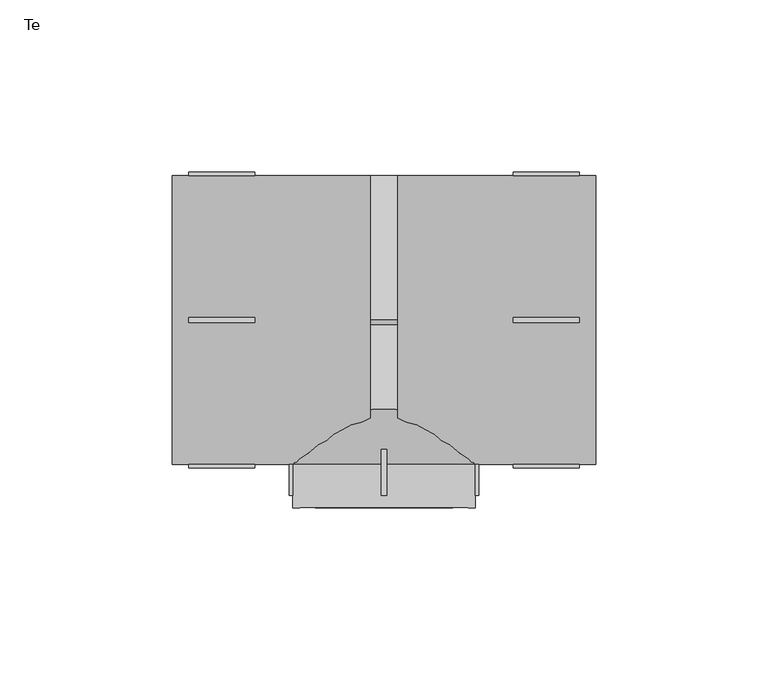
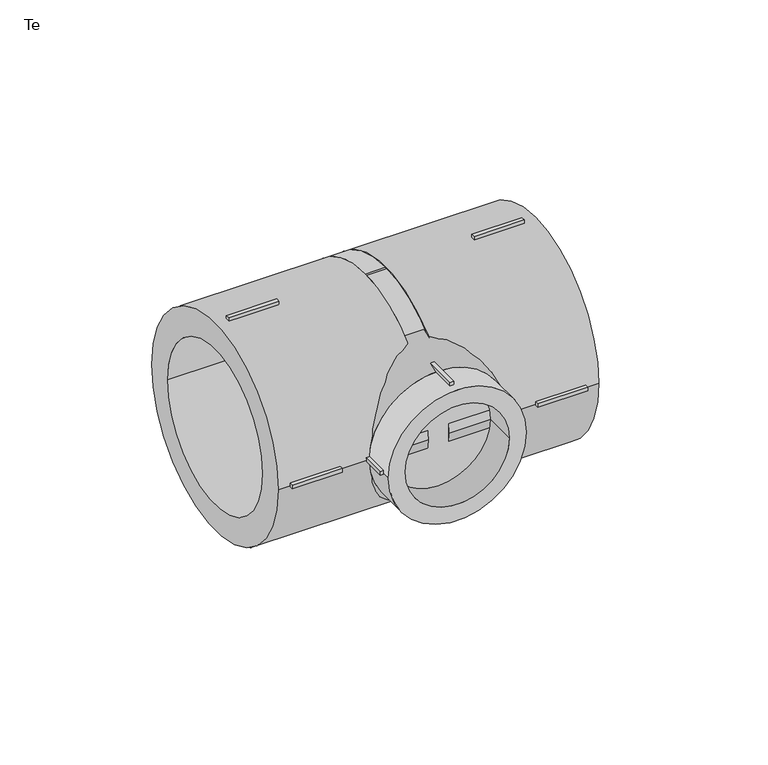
"""IFC4 building model written with IfcOpenShell, lengths in millimetres: pipe fitting geometry, EGB_VASEN_ PPR_Te WXR300_Te reducida WXR310 : Te."""

import ifcopenshell
import ifcopenshell.guid

model = None  # the IFC model being written
_history = None  # IfcOwnerHistory: only IFC2X3 demands one
_inside = {}  # id of a spatial element -> (the spatial element, [elements in it])
_under = {}  # id of a project, library or spatial element -> (it, [spatial elements below it])
_declared = {}  # id of a project -> (the project, [libraries it declares])
_typed = {}  # id of a type object -> (the type object, [elements of that type])
_made_of = {}  # id of a material, layer set ... -> (it, [elements and type objects made of it])


def new_model(schema):
    """Start an empty IFC model of exactly this schema.

    Asked for "IFC4X3", IfcOpenShell would pick the latest addendum, in which some entities
    have other attributes; the version numbers below select the first issue.
    IFC2X3 requires an IfcOwnerHistory on every rooted entity: one is made here for all.
    """
    global model, _history
    if schema == "IFC4X3":
        model = ifcopenshell.file(schema_version=(4, 3, 0, 0))
    else:
        model = ifcopenshell.file(schema=schema)
    _inside.clear()
    _under.clear()
    _declared.clear()
    _typed.clear()
    _made_of.clear()
    _history = None
    if model.schema == "IFC2X3":
        org = make("IfcOrganization", Name="unknown")
        user = make(
            "IfcPersonAndOrganization",
            ThePerson=make("IfcPerson", FamilyName="unknown"),
            TheOrganization=org,
        )
        app = make(
            "IfcApplication",
            ApplicationDeveloper=org,
            Version="unknown",
            ApplicationFullName="unknown",
            ApplicationIdentifier="unknown",
        )
        _history = make(
            "IfcOwnerHistory",
            OwningUser=user,
            OwningApplication=app,
            ChangeAction="ADDED",
            CreationDate=0,
        )
    return model


def make(cls, **values):
    """One entity of the class cls with the attributes given. An attribute that is None is left unset."""
    return model.create_entity(
        cls, **{name: value for name, value in values.items() if value is not None}
    )


def rooted(cls, **values):
    """An entity with a GlobalId (a new one), such as an element, a storey or a relation."""
    return make(cls, GlobalId=ifcopenshell.guid.new(), OwnerHistory=_history, **values)


def si_unit(unit_type, name, prefix=None):
    """IfcSIUnit, for example si_unit("LENGTHUNIT", "METRE", prefix="MILLI")."""
    return make("IfcSIUnit", UnitType=unit_type, Prefix=prefix, Name=name)


def assignment(units):
    """IfcUnitAssignment: the units of a project."""
    return None if units is None else make("IfcUnitAssignment", Units=units)


def point(xyz):
    """IfcCartesianPoint."""
    return None if xyz is None else make("IfcCartesianPoint", Coordinates=xyz)


def direction(xyz):
    """IfcDirection."""
    return None if xyz is None else make("IfcDirection", DirectionRatios=xyz)


def frame(location, z_axis=None, x_axis=None):
    """IfcAxis2Placement3D, a coordinate frame: its origin and axes. An axis left out is left unset."""
    return make(
        "IfcAxis2Placement3D",
        Location=point(location),
        Axis=direction(z_axis),
        RefDirection=direction(x_axis),
    )


def frame_2d(location, x_axis=None):
    """IfcAxis2Placement2D, a coordinate frame in the plane: its origin and x axis."""
    return make(
        "IfcAxis2Placement2D", Location=point(location), RefDirection=direction(x_axis)
    )


def origin():
    """The frame at (0, 0, 0) with its axes left unset."""
    return frame((0.0, 0.0, 0.0))


def origin_2d():
    """The frame at (0, 0) in the plane with its x axis left unset."""
    return frame_2d((0.0, 0.0))


def place(relative_to, where):
    """IfcLocalPlacement: puts the frame where relative to a parent placement (None: the world)."""
    return make(
        "IfcLocalPlacement", PlacementRelTo=relative_to, RelativePlacement=where
    )


def context(
    kind, dimensions, precision=None, world=None, true_north=None, identifier=None
):
    """IfcGeometricRepresentationContext, for example the 3D "Model" context."""
    return make(
        "IfcGeometricRepresentationContext",
        ContextIdentifier=identifier,
        ContextType=kind,
        CoordinateSpaceDimension=dimensions,
        Precision=precision,
        WorldCoordinateSystem=world,
        TrueNorth=true_north,
    )


def project(units=None, contexts=None):
    """IfcProject with its units and contexts."""
    return rooted(
        "IfcProject",
        Name="project",
        RepresentationContexts=contexts,
        UnitsInContext=assignment(units),
    )


def spatial(cls, under=None, at=None, **own):
    """A site, building, storey or space (cls), placed at a placement, below another one or the project."""
    s = rooted(cls, ObjectPlacement=at, **own)
    if under is not None:
        _under.setdefault(under.id(), (under, []))[1].append(s)
    return s


def polyline(points):
    """IfcPolyline through the points."""
    return make("IfcPolyline", Points=[point(p) for p in points])


def circle_curve(where, radius):
    """IfcCircle in the frame where."""
    return make("IfcCircle", Position=where, Radius=radius)


def trimmed(basis, trim1, trim2, sense, master):
    """IfcTrimmedCurve: the piece of a basis curve between two trims."""
    return make(
        "IfcTrimmedCurve",
        BasisCurve=basis,
        Trim1=trim1,
        Trim2=trim2,
        SenseAgreement=sense,
        MasterRepresentation=master,
    )


def segment(curve, same_sense, transition):
    """IfcCompositeCurveSegment."""
    return make(
        "IfcCompositeCurveSegment",
        Transition=transition,
        SameSense=same_sense,
        ParentCurve=curve,
    )


def composite_curve(segments, self_intersect=None):
    """IfcCompositeCurve: segments joined end to end."""
    return make("IfcCompositeCurve", Segments=segments, SelfIntersect=self_intersect)


def outline(outer, holes=None, kind="AREA"):
    """IfcArbitraryClosedProfileDef: a profile drawn as a closed curve; with holes, ...WithVoids."""
    if holes is None:
        return make("IfcArbitraryClosedProfileDef", ProfileType=kind, OuterCurve=outer)
    return make(
        "IfcArbitraryProfileDefWithVoids",
        ProfileType=kind,
        OuterCurve=outer,
        InnerCurves=holes,
    )


def extrude(swept, where, along, depth):
    """IfcExtrudedAreaSolid: the profile swept, set in the frame where, extruded along a direction by depth."""
    return make(
        "IfcExtrudedAreaSolid",
        SweptArea=swept,
        Position=where,
        ExtrudedDirection=direction(along),
        Depth=depth,
    )


def shape(context_of_items, identifier, shape_type, items):
    """IfcShapeRepresentation: the items that make up one representation, for example the "Body"."""
    return make(
        "IfcShapeRepresentation",
        ContextOfItems=context_of_items,
        RepresentationIdentifier=identifier,
        RepresentationType=shape_type,
        Items=items,
    )


def source(mapping_origin, context_of_items, identifier, shape_type, items):
    """IfcRepresentationMap: a shape defined once, which mapped items show again and again."""
    return make(
        "IfcRepresentationMap",
        MappingOrigin=mapping_origin,
        MappedRepresentation=shape(context_of_items, identifier, shape_type, items),
    )


def transform(
    local_origin,
    x_axis=None,
    y_axis=None,
    z_axis=None,
    scale=None,
    scale2=None,
    scale3=None,
    uniform=True,
):
    """IfcCartesianTransformationOperator3D, or its non-uniform kind. x_axis, y_axis, z_axis: its Axis1, 2, 3."""
    if uniform:
        return make(
            "IfcCartesianTransformationOperator3D",
            Axis1=direction(x_axis),
            Axis2=direction(y_axis),
            LocalOrigin=point(local_origin),
            Scale=scale,
            Axis3=direction(z_axis),
        )
    return make(
        "IfcCartesianTransformationOperator3DnonUniform",
        Axis1=direction(x_axis),
        Axis2=direction(y_axis),
        LocalOrigin=point(local_origin),
        Scale=scale,
        Axis3=direction(z_axis),
        Scale2=scale2,
        Scale3=scale3,
    )


def mapped(mapping_source, mapping_target):
    """IfcMappedItem: shows the shape of a source again, moved by a transform."""
    return make(
        "IfcMappedItem", MappingSource=mapping_source, MappingTarget=mapping_target
    )


def made_of(thing, what):
    """Note that an element or type object is made of a material, layer set ...; save() writes the relation."""
    if what is not None:
        _made_of.setdefault(what.id(), (what, []))[1].append(thing)
    return thing


def element(
    cls,
    number,
    at=None,
    inside=None,
    cuts=None,
    type_object=None,
    material=None,
    context=None,
    identifier="Body",
    shape_type=None,
    held_by="IfcProductDefinitionShape",
    body=None,
    shapes=None,
    **own,
):
    """One element of the class cls, such as IfcWall. Its Tag is "e" and its number.

    at: its placement. inside: the storey or other place that contains it. cuts: it is an
    opening in that element (IfcRelVoidsElement). A single representation is given by context,
    identifier, shape_type and body (its items); several are given by shapes. held_by: the class
    of the entity that holds the representations. save() writes the other relations.
    """
    e = rooted(cls, Tag="e%d" % number, ObjectPlacement=at, **own)
    if body is not None:
        shapes = [shape(context, identifier, shape_type, body)]
    if shapes is not None:
        e.Representation = make(held_by, Representations=shapes)
    if inside is not None:
        _inside.setdefault(inside.id(), (inside, []))[1].append(e)
    if cuts is not None:
        rooted(
            "IfcRelVoidsElement", RelatingBuildingElement=cuts, RelatedOpeningElement=e
        )
    if type_object is not None:
        _typed.setdefault(type_object.id(), (type_object, []))[1].append(e)
    return made_of(e, material)


def aggregate(whole, parts):
    """IfcRelAggregates: a whole, such as a stair, and the parts it consists of."""
    return rooted("IfcRelAggregates", RelatingObject=whole, RelatedObjects=parts)


def save(model, path):
    """Write the relations noted so far, then the file.

    IfcRelAggregates (storeys below a building ...), IfcRelContainedInSpatialStructure (elements
    in a storey), IfcRelDefinesByType, IfcRelAssociatesMaterial and IfcRelDeclares: one each for
    every whole, place, type object, material and project.
    """
    for whole, parts in _under.values():
        aggregate(whole, parts)
    for where, things in _inside.values():
        rooted(
            "IfcRelContainedInSpatialStructure",
            RelatedElements=things,
            RelatingStructure=where,
        )
    for kind, things in _typed.values():
        rooted("IfcRelDefinesByType", RelatedObjects=things, RelatingType=kind)
    for what, things in _made_of.values():
        rooted("IfcRelAssociatesMaterial", RelatedObjects=things, RelatingMaterial=what)
    for by, libraries in _declared.values():
        rooted("IfcRelDeclares", RelatingContext=by, RelatedDefinitions=libraries)
    model.write(path)


def plane_surface(at):
    """IfcPlane: the flat surface through the origin of the frame at, square to its z axis."""
    return make("IfcPlane", Position=at)


def revolved_surface(curve, axis_point, axis_direction):
    """IfcSurfaceOfRevolution: the curve turned about the line through axis_point along axis_direction."""
    return make(
        "IfcSurfaceOfRevolution",
        SweptCurve=make("IfcArbitraryOpenProfileDef", ProfileType="CURVE", Curve=curve),
        AxisPosition=make("IfcAxis1Placement", Location=point(axis_point), Axis=direction(axis_direction)),
    )


def advanced_brep(points, edges, surfaces, faces):
    """IfcAdvancedBrep: a solid bounded by faces that lie on surfaces and meet in shared edges.

    An edge is (start, end): straight between two places in points (the first is 0);
    or (start, end, curve); or (start, end, curve, False) where it runs against its curve.
    A face is (place in surfaces, loops), or (place, loops, False) where it looks against
    its surface's normal. A loop lists edges by number (the first is 1), with a minus sign
    where the edge is run from its end to its start. The first loop is the outer one.
    """
    corners = [point(p) for p in points]
    vertices = [make("IfcVertexPoint", VertexGeometry=c) for c in corners]
    made = []
    for start, end, *more in edges:
        made.append(
            make(
                "IfcEdgeCurve",
                EdgeStart=vertices[start],
                EdgeEnd=vertices[end],
                EdgeGeometry=more[0] if more else make("IfcPolyline", Points=[corners[start], corners[end]]),
                SameSense=more[1] if len(more) > 1 else True,
            )
        )
    hull = []
    for where, loops, *sense in faces:
        bounds = []
        for j, loop in enumerate(loops):
            ring = [make("IfcOrientedEdge", EdgeElement=made[abs(k) - 1], Orientation=k > 0) for k in loop]
            bounds.append(
                make(
                    "IfcFaceOuterBound" if j == 0 else "IfcFaceBound",
                    Bound=make("IfcEdgeLoop", EdgeList=ring),
                    Orientation=True,
                )
            )
        hull.append(make("IfcAdvancedFace", Bounds=bounds, FaceSurface=surfaces[where], SameSense=sense[0] if sense else True))
    return make("IfcAdvancedBrep", Outer=make("IfcClosedShell", CfsFaces=hull))


def te_e618431b(model_context):
    return source(origin(), model_context, "Body", "SolidModel", [
        extrude(outline(polyline([(-0.75, -36.5), (0.75, -36.5), (0.75, -50.9), (-0.75, -50.9), (-0.75, -36.5)])), frame((0.0, 0.0, 25.5), z_axis=(0.0, 0.0, 1.0), x_axis=(1.0, 0.0, 0.0)), (0.0, 0.0, 1.0), 2.0),
        extrude(outline(polyline([(-0.75, -36.5), (0.75, -36.5), (0.75, -50.9), (-0.75, -50.9), (-0.75, -36.5)])), frame((0.0, 0.0, -27.5), z_axis=(0.0, 0.0, 1.0), x_axis=(1.0, 0.0, 0.0)), (0.0, 0.0, 1.0), 2.0),
        extrude(outline(polyline([(25.5, -36.5), (27.5, -36.5), (27.5, -50.9), (25.5, -50.9), (25.5, -36.5)])), frame((0.0, 0.0, -0.75), z_axis=(0.0, 0.0, 1.0), x_axis=(1.0, 0.0, 0.0)), (0.0, 0.0, 1.0), 1.5),
        extrude(outline(polyline([(-27.5, -36.5), (-25.5, -36.5), (-25.5, -50.9), (-27.5, -50.9), (-27.5, -36.5)])), frame((0.0, 0.0, -0.75), z_axis=(0.0, 0.0, 1.0), x_axis=(1.0, 0.0, 0.0)), (0.0, 0.0, 1.0), 1.5),
        extrude(outline(polyline([(37.5, -0.75), (37.5, 0.75), (56.7, 0.75), (56.7, -0.75), (37.5, -0.75)])), frame((0.0, 0.0, 41.0), z_axis=(0.0, 0.0, 1.0), x_axis=(1.0, 0.0, 0.0)), (0.0, 0.0, 1.0), 2.0),
        extrude(outline(polyline([(37.5, -0.75), (37.5, 0.75), (56.7, 0.75), (56.7, -0.75), (37.5, -0.75)])), frame((0.0, 0.0, -43.0), z_axis=(0.0, 0.0, 1.0), x_axis=(1.0, 0.0, 0.0)), (0.0, 0.0, 1.0), 2.0),
        extrude(outline(polyline([(37.5, 41.0), (37.5, 43.0), (56.7, 43.0), (56.7, 41.0), (37.5, 41.0)])), frame((0.0, 0.0, -0.75), z_axis=(0.0, 0.0, 1.0), x_axis=(1.0, 0.0, 0.0)), (0.0, 0.0, 1.0), 1.5),
        extrude(outline(polyline([(37.5, -43.0), (37.5, -41.0), (56.7, -41.0), (56.7, -43.0), (37.5, -43.0)])), frame((0.0, 0.0, -0.75), z_axis=(0.0, 0.0, 1.0), x_axis=(1.0, 0.0, 0.0)), (0.0, 0.0, 1.0), 1.5),
        extrude(outline(polyline([(-37.5, 0.75), (-37.5, -0.75), (-56.7, -0.75), (-56.7, 0.75), (-37.5, 0.75)])), frame((0.0, 0.0, 41.0), z_axis=(0.0, 0.0, 1.0), x_axis=(1.0, 0.0, 0.0)), (0.0, 0.0, 1.0), 2.0),
        extrude(outline(polyline([(-37.5, 0.75), (-37.5, -0.75), (-56.7, -0.75), (-56.7, 0.75), (-37.5, 0.75)])), frame((0.0, 0.0, -43.0), z_axis=(0.0, 0.0, 1.0), x_axis=(1.0, 0.0, 0.0)), (0.0, 0.0, 1.0), 2.0),
        extrude(outline(polyline([(-37.5, 43.0), (-37.5, 41.0), (-56.7, 41.0), (-56.7, 43.0), (-37.5, 43.0)])), frame((0.0, 0.0, -0.75), z_axis=(0.0, 0.0, 1.0), x_axis=(1.0, 0.0, 0.0)), (0.0, 0.0, 1.0), 1.5),
        extrude(outline(polyline([(-37.5, -41.0), (-37.5, -43.0), (-56.7, -43.0), (-56.7, -41.0), (-37.5, -41.0)])), frame((0.0, 0.0, -0.75), z_axis=(0.0, 0.0, 1.0), x_axis=(1.0, 0.0, 0.0)), (0.0, 0.0, 1.0), 1.5),
        extrude(outline(composite_curve([segment(trimmed(circle_curve(origin_2d(), 26.5), [point((0.0, 26.5))], [point((0.0, -26.5))], False, "CARTESIAN"), True, "CONTINUOUS"), segment(trimmed(circle_curve(origin_2d(), 26.5), [point((0.0, -26.5))], [point((0.0, 26.5))], False, "CARTESIAN"), True, "CONTINUOUS")], self_intersect=False), holes=[composite_curve([segment(trimmed(circle_curve(origin_2d(), 20.0), [point((0.0, 20.0))], [point((0.0, -20.0))], True, "CARTESIAN"), True, "CONTINUOUS"), segment(trimmed(circle_curve(origin_2d(), 20.0), [point((0.0, -20.0))], [point((0.0, 20.0))], True, "CARTESIAN"), True, "CONTINUOUS")], self_intersect=False)]), frame((0.0, -54.5, 0.0), z_axis=(0.0, 1.0, 0.0), x_axis=(0.0, 0.0, 1.0)), (0.0, 0.0, 1.0), 12.5),
        extrude(outline(composite_curve([segment(trimmed(circle_curve(origin_2d(), 42.0), [point((-42.0, 0.0))], [point((42.0, 0.0))], False, "CARTESIAN"), True, "CONTINUOUS"), segment(trimmed(circle_curve(origin_2d(), 42.0), [point((42.0, 0.0))], [point((-42.0, 0.0))], False, "CARTESIAN"), True, "CONTINUOUS")], self_intersect=False), holes=[composite_curve([segment(trimmed(circle_curve(origin_2d(), 31.5), [point((-31.5, 0.0))], [point((31.5, 0.0))], True, "CARTESIAN"), True, "CONTINUOUS"), segment(trimmed(circle_curve(origin_2d(), 31.5), [point((31.5, 0.0))], [point((-31.5, 0.0))], True, "CARTESIAN"), True, "CONTINUOUS")], self_intersect=False)]), frame((4.0, 0.0, 0.0), z_axis=(1.0, 0.0, 0.0), x_axis=(0.0, 1.0, 0.0)), (0.0, 0.0, 1.0), 57.5),
        extrude(outline(composite_curve([segment(trimmed(circle_curve(origin_2d(), 42.0), [point((-42.0, 0.0))], [point((42.0, 0.0))], False, "CARTESIAN"), True, "CONTINUOUS"), segment(trimmed(circle_curve(origin_2d(), 42.0), [point((42.0, 0.0))], [point((-42.0, 0.0))], False, "CARTESIAN"), True, "CONTINUOUS")], self_intersect=False), holes=[composite_curve([segment(trimmed(circle_curve(origin_2d(), 31.5), [point((-31.5, 0.0))], [point((31.5, 0.0))], True, "CARTESIAN"), True, "CONTINUOUS"), segment(trimmed(circle_curve(origin_2d(), 31.5), [point((31.5, 0.0))], [point((-31.5, 0.0))], True, "CARTESIAN"), True, "CONTINUOUS")], self_intersect=False)]), frame((-61.5, 0.0, 0.0), z_axis=(1.0, 0.0, 0.0), x_axis=(0.0, 1.0, 0.0)), (0.0, 0.0, 1.0), 57.5),
        advanced_brep(
        [(42.0, 0.0, 0.0), (-42.0, 0.0, 0.0), (26.5, -42.0, 0.0), (-26.5, -42.0, 0.0)],
        [
            (0, 1, circle_curve(frame((0.0, 0.0, 0.0), z_axis=(0.0, 1.0, 0.0), x_axis=(1.0, 0.0, 0.0)), 42.0)),
            (1, 0, circle_curve(frame((0.0, 0.0, 0.0), z_axis=(0.0, 1.0, 0.0), x_axis=(-1.0, 0.0, 0.0)), 42.0)),
            (2, 3, circle_curve(frame((0.0, -42.0, 0.0), z_axis=(0.0, -1.0, 0.0), x_axis=(-1.0, 0.0, 0.0)), 26.5)),
            (3, 2, circle_curve(frame((0.0, -42.0, 0.0), z_axis=(0.0, -1.0, 0.0), x_axis=(1.0, 0.0, 0.0)), 26.5)),
            (3, 1),
            (0, 2),
        ],
        [
            plane_surface(frame((0.0, 0.0, 0.0), z_axis=(0.0, 1.0, 0.0), x_axis=(0.0, 0.0, -1.0))),
            plane_surface(frame((0.0, -42.0, 0.0), z_axis=(0.0, -1.0, 0.0), x_axis=(0.0, 0.0, -1.0))),
            revolved_surface(polyline([(-26.499999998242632, -42.0, 0.0), (-42.0, 0.0, 0.0)]), (0.0, -113.8064516, 0.0), (0.0, 1.0, 0.0)),
            revolved_surface(polyline([(26.499999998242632, -42.0, 0.0), (42.0, 0.0, 0.0)]), (0.0, -113.8064516, 0.0), (0.0, 1.0, 0.0)),
        ],
        [
            (0, [[1, 2]]),
            (1, [[3, 4]]),
            (2, [[-4, 5, -1, 6]]),
            (3, [[-3, -6, -2, -5]]),
        ],
    ),
        extrude(outline(composite_curve([segment(trimmed(circle_curve(origin_2d(), 42.0), [point((-42.0, 0.0))], [point((42.0, 0.0))], False, "CARTESIAN"), True, "CONTINUOUS"), segment(trimmed(circle_curve(origin_2d(), 42.0), [point((42.0, 0.0))], [point((-42.0, 0.0))], False, "CARTESIAN"), True, "CONTINUOUS")], self_intersect=False)), frame((-4.0, 0.0, 0.0), z_axis=(1.0, 0.0, 0.0), x_axis=(0.0, 1.0, 0.0)), (0.0, 0.0, 1.0), 8.0),
    ])


if __name__ == "__main__":
    model = new_model("IFC4")
    model_context = context("Model", 3, world=origin())
    ifc_project = project(units=[si_unit("LENGTHUNIT", "METRE", prefix="MILLI")], contexts=[model_context])
    site = spatial("IfcSite", under=ifc_project)
    building = spatial("IfcBuilding", under=site)
    placement = place(None, origin())
    te_shape = te_e618431b(model_context)
    element("IfcPipeFitting", 1, ObjectType="EGB_VASEN_ PPR_Te WXR300_Te reducida WXR310 : Te", at=placement, inside=building, context=model_context, shape_type="MappedRepresentation", body=[
        mapped(te_shape, transform((0.0, 0.0, 0.0), x_axis=(1.0, 0.0, 0.0), y_axis=(0.0, 1.0, 0.0), z_axis=(0.0, 0.0, 1.0))),
    ])
    save(model, "model.ifc")
